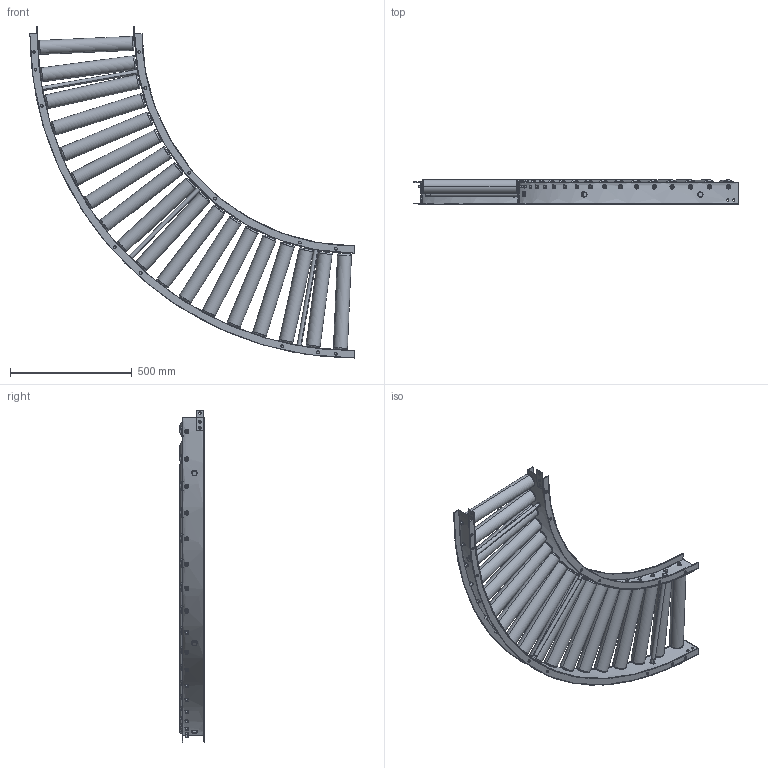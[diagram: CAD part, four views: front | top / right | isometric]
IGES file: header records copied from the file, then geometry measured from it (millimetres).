
Start section: SolidWorks IGES file using analytic representation for surfaces
Global section: file name: C:\Users\0656\Desktop\変換ツール\iges変換\S-5721P_C.igs; native system: SolidWorks 2023; preprocessor: SolidWorks 2023; author: 0656; date: 240302.141303; units: millimetre
Bounding box: 1330 x 100.1 x 1361.57 mm (x, y, z)
Surface area: 3282838 mm2 (no closed solid volume)
Topology: 0 solids, 0 shells, 1102 faces, 18996 edges, 18996 vertices
Faces by surface type: bspline 660, revolution 442
